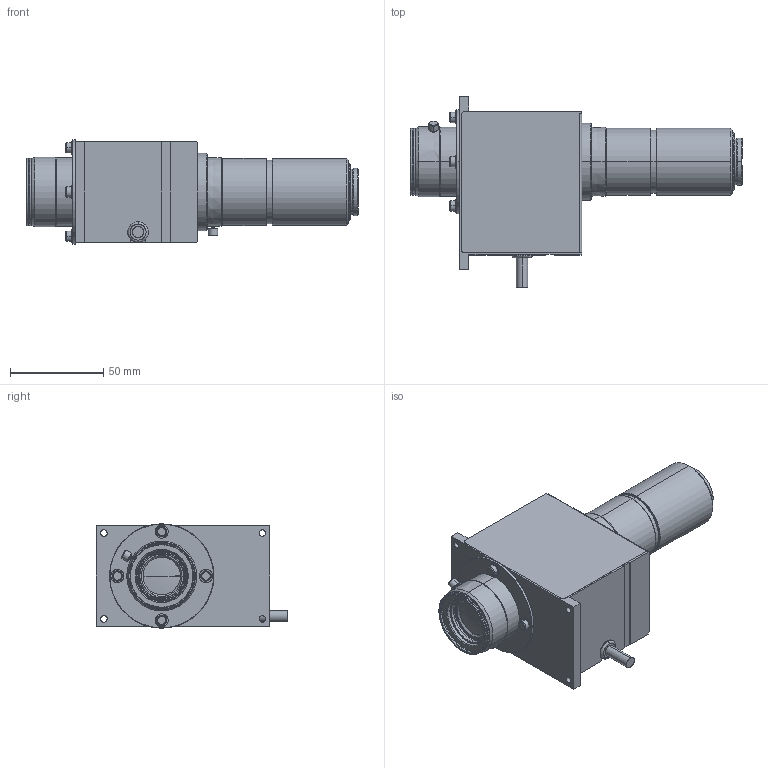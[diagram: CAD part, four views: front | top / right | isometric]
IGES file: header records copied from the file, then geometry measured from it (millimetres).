
Start section: SolidWorks IGES file using analytic representation for surfaces
Global section: file name: C:\Users\tsuji_vst\Documents\【図面】\【1.製品】\04_ズームレンズ\Z0745-MR\VSZ-0745-MR.IGS,15HSolidWorks; native system: 2015; preprocessor: SolidWorks 2015; author: tsuji_vst; date: 150525.134333; units: millimetre
Bounding box: 178.07 x 102.5 x 56 mm (x, y, z)
Surface area: 106227.7 mm2 (no closed solid volume)
Topology: 0 solids, 0 shells, 411 faces, 8014 edges, 8012 vertices
Faces by surface type: revolution 277, bspline 134
